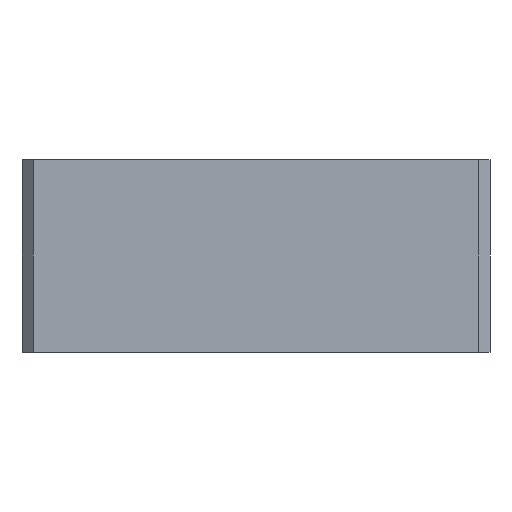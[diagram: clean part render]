
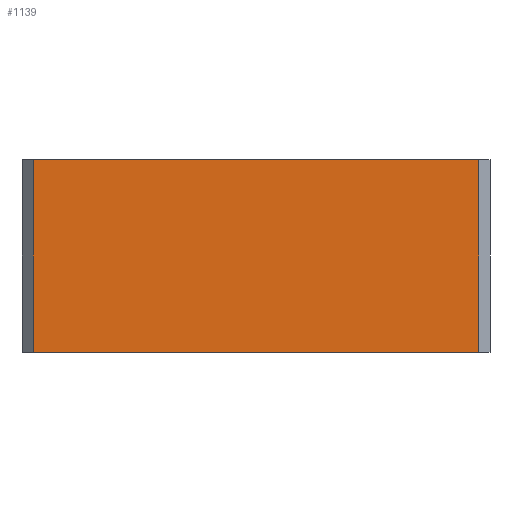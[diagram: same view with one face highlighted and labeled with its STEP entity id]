
A CAD part, front view. The second image highlights one B-rep face of the part: STEP entity #1139.
In plain terms, the highlighted planar face has unit normal (0, -1, 0).
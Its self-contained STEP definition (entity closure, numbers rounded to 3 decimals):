
#1112=AXIS2_PLACEMENT_3D('Plane Axis2P3D',#1109,#1110,#1111) ;
#1087=CARTESIAN_POINT('Vertex',(-40.5,-55.,0.)) ;
#1090=CARTESIAN_POINT('Line Origine',(-40.5,-55.,17.5)) ;
#1094=CARTESIAN_POINT('Vertex',(-40.5,-55.,35.)) ;
#1109=CARTESIAN_POINT('Axis2P3D Location',(42.5,-55.,0.)) ;
#1114=CARTESIAN_POINT('Line Origine',(40.5,-55.,17.5)) ;
#1118=CARTESIAN_POINT('Vertex',(40.5,-55.,0.)) ;
#1120=CARTESIAN_POINT('Vertex',(40.5,-55.,35.)) ;
#1123=CARTESIAN_POINT('Line Origine',(0.,-55.,35.)) ;
#1128=CARTESIAN_POINT('Line Origine',(0.,-55.,0.)) ;
#1091=DIRECTION('Vector Direction',(0.,0.,1.)) ;
#1110=DIRECTION('Axis2P3D Direction',(0.,1.,-0.)) ;
#1111=DIRECTION('Axis2P3D XDirection',(-1.,0.,0.)) ;
#1115=DIRECTION('Vector Direction',(0.,0.,-1.)) ;
#1124=DIRECTION('Vector Direction',(-1.,0.,0.)) ;
#1129=DIRECTION('Vector Direction',(-1.,0.,0.)) ;
#1092=VECTOR('Line Direction',#1091,1.) ;
#1116=VECTOR('Line Direction',#1115,1.) ;
#1125=VECTOR('Line Direction',#1124,1.) ;
#1130=VECTOR('Line Direction',#1129,1.) ;
#1134=ORIENTED_EDGE('',*,*,#1122,.T.) ;
#1135=ORIENTED_EDGE('',*,*,#1127,.F.) ;
#1136=ORIENTED_EDGE('',*,*,#1096,.F.) ;
#1137=ORIENTED_EDGE('',*,*,#1132,.T.) ;
#1139=ADVANCED_FACE('PartBody',(#1138),#1113,.F.) ;
#1096=EDGE_CURVE('',#1088,#1095,#1093,.T.) ;
#1122=EDGE_CURVE('',#1119,#1121,#1117,.F.) ;
#1127=EDGE_CURVE('',#1095,#1121,#1126,.F.) ;
#1132=EDGE_CURVE('',#1088,#1119,#1131,.F.) ;
#1133=EDGE_LOOP('',(#1134,#1135,#1136,#1137)) ;
#1138=FACE_OUTER_BOUND('',#1133,.T.) ;
#1093=LINE('Line',#1090,#1092) ;
#1117=LINE('Line',#1114,#1116) ;
#1126=LINE('Line',#1123,#1125) ;
#1131=LINE('Line',#1128,#1130) ;
#1113=PLANE('',#1112) ;
#1088=VERTEX_POINT('',#1087) ;
#1095=VERTEX_POINT('',#1094) ;
#1119=VERTEX_POINT('',#1118) ;
#1121=VERTEX_POINT('',#1120) ;
